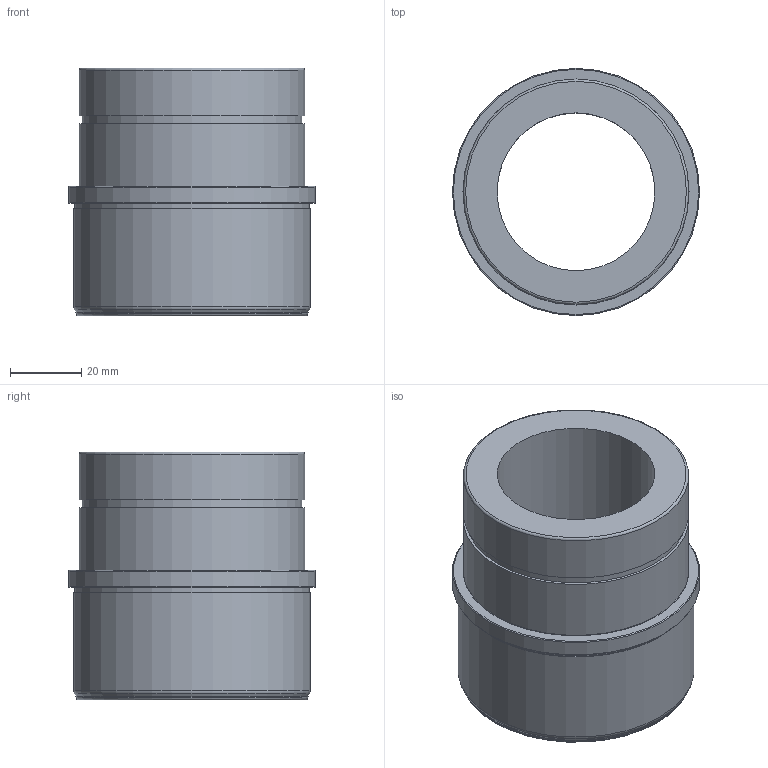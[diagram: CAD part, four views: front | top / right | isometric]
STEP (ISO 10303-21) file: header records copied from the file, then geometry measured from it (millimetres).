
FILE_DESCRIPTION (( 'STEP AP214' ), '1' );
FILE_NAME ('GK1.75-P1.5-Base.stp', '2024-03-20T14:37:01', ( '' ), ( '' ), 'SwSTEP 2.0', 'SolidWorks 2020', '' );
FILE_SCHEMA (( 'AUTOMOTIVE_DESIGN' ));
Length unit declared in the file: inch
Products named in the file (1): GK1.75-P1.5-Base
Bounding box: 69.6 x 69.6 x 69.85 mm (x, y, z)
Volume: 83853.7 mm3; surface area: 30179.1 mm2
Topology: 1 solids, 1 shells, 26 faces, 46 edges, 28 vertices
Faces by surface type: torus 9, cylinder 8, plane 8, cone 1
Full cylindrical faces by diameter (mm): 44.45 x1, 60.325 x1, 61.925 x1, 63.477 x2, 66.144 x1, 66.652 x1, 69.596 x1
Entity records: 568 total; most frequent: DIRECTION 106, CARTESIAN_POINT 79, AXIS2_PLACEMENT_3D 53, ORIENTED_EDGE 52, EDGE_LOOP 52, FACE_OUTER_BOUND 43, ADVANCED_FACE 26, VERTEX_POINT 26
